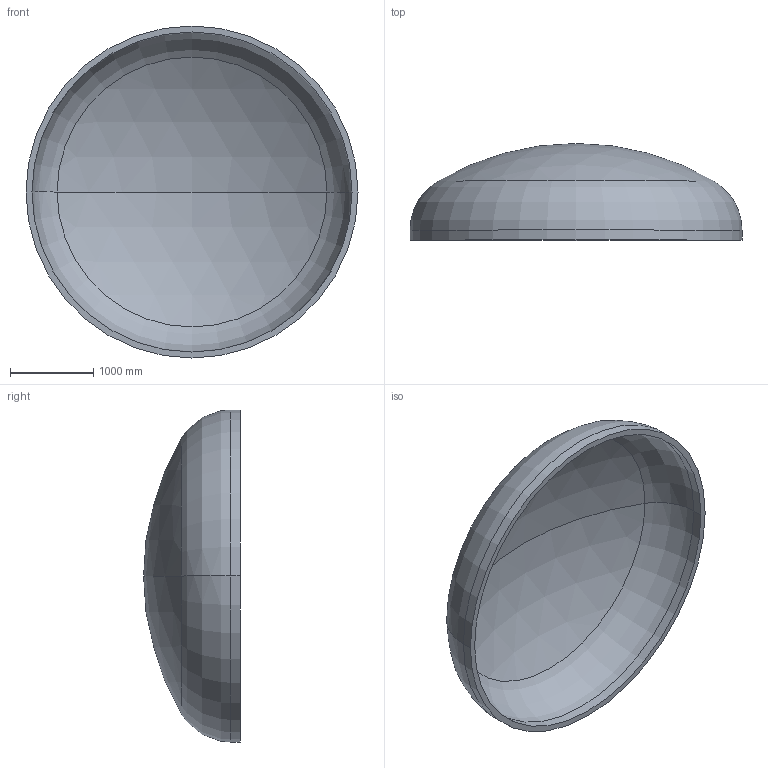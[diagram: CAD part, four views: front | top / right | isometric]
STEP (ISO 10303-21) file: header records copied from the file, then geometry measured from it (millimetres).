
FILE_DESCRIPTION (( 'STEP AP203' ), '1' );
FILE_NAME ('DIN 28013 Korbbogenform_-_Boden DIN 28013 - 4000 x 120 - I - s=72.step', '2016-07-01T22:38:05', ( '' ), ( '' ), 'SwSTEP 2.0', 'SolidWorks 2013', '' );
FILE_SCHEMA (( 'CONFIG_CONTROL_DESIGN' ));
Length unit declared in the file: millimetre
Products named in the file (1): DIN 28013 Korbbogenform_-_Boden DIN 28013 - 4000 x 120 - I - s=72
Bounding box: 4000 x 1165.29 x 4000 mm (x, y, z)
Volume: 1329946068.5 mm3; surface area: 37842283.3 mm2
Topology: 1 solids, 1 shells, 13 faces, 24 edges, 14 vertices
Faces by surface type: torus 4, cylinder 4, sphere 4, plane 1
Entity records: 407 total; most frequent: DIRECTION 72, CARTESIAN_POINT 52, ORIENTED_EDGE 48, AXIS2_PLACEMENT_3D 34, EDGE_CURVE 24, CIRCLE 20, VERTEX_POINT 14, EDGE_LOOP 14
